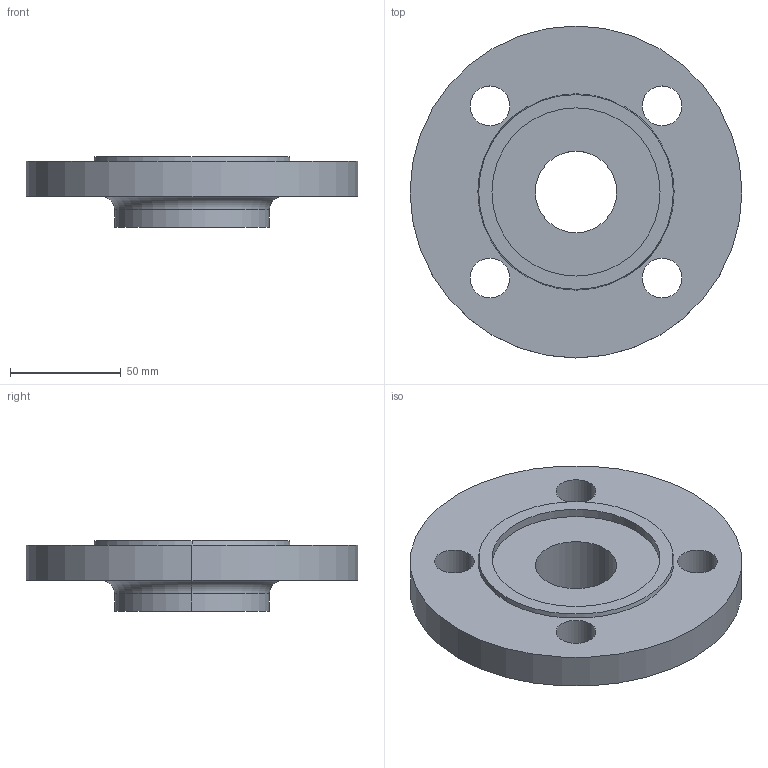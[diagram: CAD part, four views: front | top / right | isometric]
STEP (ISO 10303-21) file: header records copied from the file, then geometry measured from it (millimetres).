
FILE_DESCRIPTION (( 'STEP AP214' ), '1' );
FILE_NAME ('PN40 DN40 Type 13 - Type F Face.STEP', '2018-12-30T04:18:00', ( '' ), ( '' ), 'SwSTEP 2.0', 'SolidWorks 2019', '' );
FILE_SCHEMA (( 'AUTOMOTIVE_DESIGN' ));
Length unit declared in the file: millimetre
Products named in the file (1): PN40 DN40 Type 13 - Type F Face
Bounding box: 150 x 150 x 32 mm (x, y, z)
Volume: 286512.2 mm3; surface area: 49526.6 mm2
Topology: 1 solids, 1 shells, 25 faces, 58 edges, 38 vertices
Faces by surface type: cylinder 16, plane 5, torus 2, cone 2
Entity records: 790 total; most frequent: DIRECTION 150, CARTESIAN_POINT 122, ORIENTED_EDGE 116, AXIS2_PLACEMENT_3D 66, EDGE_CURVE 58, CIRCLE 40, EDGE_LOOP 38, VERTEX_POINT 38
